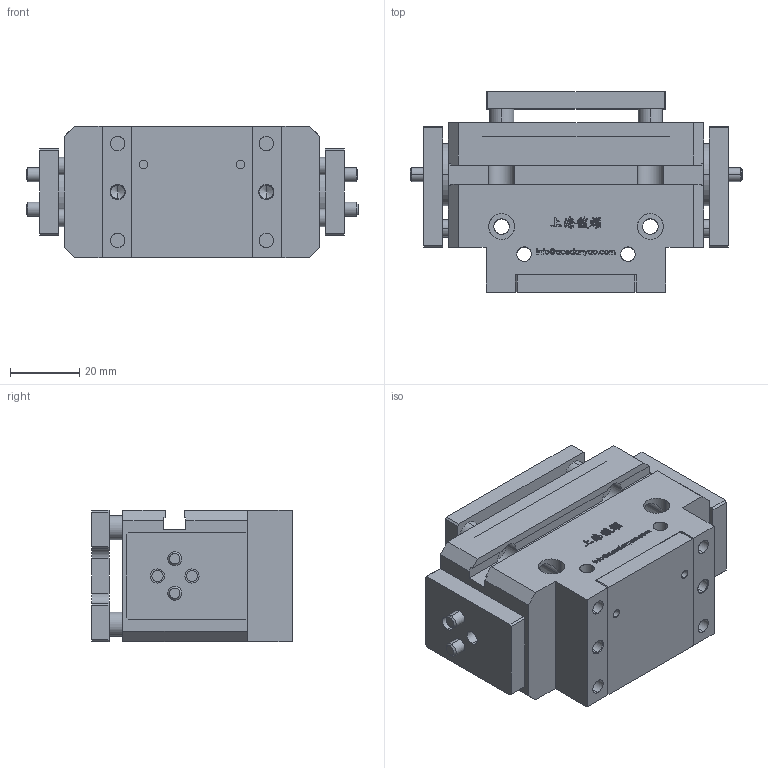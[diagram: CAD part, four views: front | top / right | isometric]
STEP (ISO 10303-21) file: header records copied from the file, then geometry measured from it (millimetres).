
FILE_DESCRIPTION (( 'STEP AP203' ), '1' );
FILE_NAME ('SRO-64-P-原始檔-組合-W106.04.20.STEP', '2017-04-20T07:55:10', ( 'DanyaoCAD' ), ( '' ), 'SwSTEP 2.0', 'SolidWorks 2016', '' );
FILE_SCHEMA (( 'CONFIG_CONTROL_DESIGN' ));
Length unit declared in the file: millimetre
Products named in the file (5): SRO-64-P-原始檔-組合-W106.04.20; Griffa; Piattello; Corpo; Fondello
Assembly tree (5 placements, depth 2):
  SRO-64-P-原始檔-組合-W106.04.20
    Griffa  x2
    Piattello
    Corpo
    Fondello
Bounding box: 96 x 58 x 38 mm (x, y, z)
Volume: 133453.7 mm3; surface area: 45711.1 mm2
Topology: 5 solids, 5 shells, 1054 faces, 2882 edges, 1904 vertices
Faces by surface type: bspline 640, plane 278, cylinder 112, cone 24
Entity records: 52609 total; most frequent: CARTESIAN_POINT 30809, ORIENTED_EDGE 5576, EDGE_CURVE 2788, DIRECTION 2240, VERTEX_POINT 1848, B_SPLINE_CURVE_WITH_KNOTS 1402, LINE 1294, VECTOR 1294
